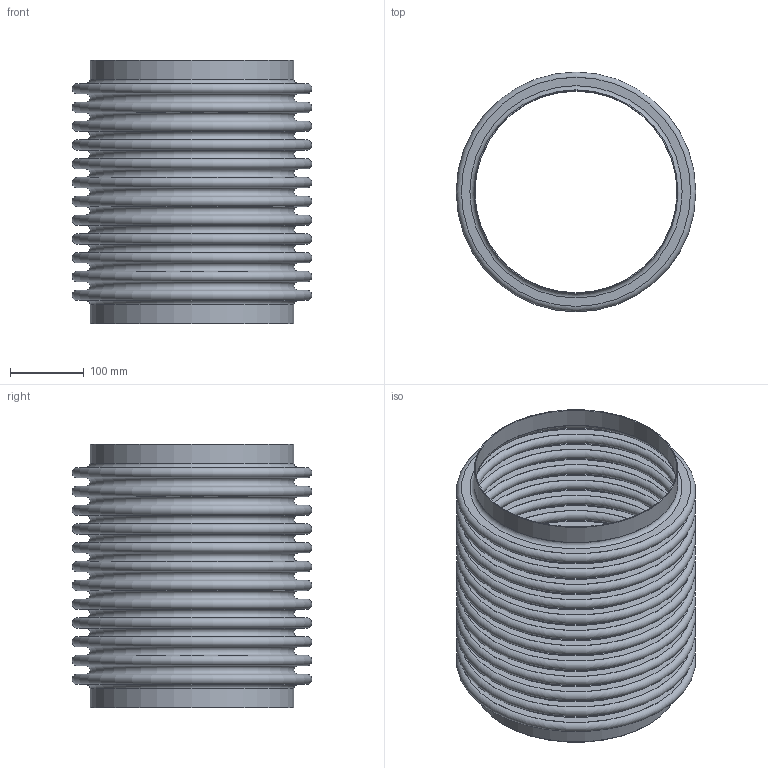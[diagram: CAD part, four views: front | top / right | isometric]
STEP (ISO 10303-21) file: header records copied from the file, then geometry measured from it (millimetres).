
FILE_DESCRIPTION(/* description */ ('STOCK BELLOWS: U.S-10-12-150L, 10.750 I.D., 12.750 O.D., 1 PLY, 18 GA (0.048 THICK), 12 CONS., 1.000 PITCH, 1.000 TANGENT. '),/* implementation_level */ '2;1');
FILE_NAME(/* name */ 'STOCK BELLOW - US-10-12-150L.stp',/* time_stamp */ '2026-07-21T13:03:15-05:00',/* author */ ('KennethB'),/* organization */ (''),/* preprocessor_version */ 'ST-DEVELOPER v20.1',/* originating_system */ 'Autodesk Inventor 2026',/* authorisation */ '');
FILE_SCHEMA (('AUTOMOTIVE_DESIGN { 1 0 10303 214 3 1 1 }'));
Length unit declared in the file: inch
Products named in the file (1): STOCK BELLOW - US-10-12-150L
Bounding box: 323.85 x 323.85 x 355.6 mm (x, y, z)
Volume: 915651.1 mm3; surface area: 1508355.4 mm2
Topology: 3 solids, 3 shells, 108 faces, 162 edges, 109 vertices
Faces by surface type: plane 54, torus 50, cylinder 4
Full cylindrical faces by diameter (mm): 273.05 x2, 275.488 x2
Entity records: 2550 total; most frequent: DIRECTION 538, CARTESIAN_POINT 380, ORIENTED_EDGE 324, AXIS2_PLACEMENT_3D 267, EDGE_LOOP 162, EDGE_CURVE 162, CIRCLE 158, FACE_OUTER_BOUND 108
